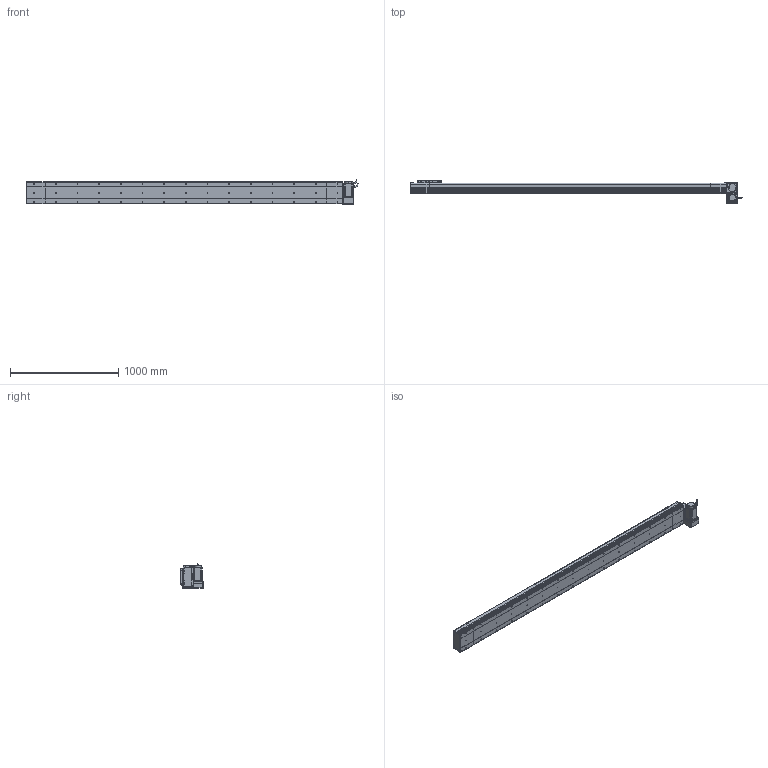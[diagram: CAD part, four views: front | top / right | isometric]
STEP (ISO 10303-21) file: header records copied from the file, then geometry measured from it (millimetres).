
FILE_DESCRIPTION (( 'STEP AP214' ), '1' );
FILE_NAME ('D20 CBH RU S2600.STEP', '2010-06-30T10:19:48', ( 'Conseil Régional Haute-Normandie' ), ( 'Conseil Régional Haute-Normandie' ), 'SwSTEP 2.0', 'SolidWorks 2010', '' );
FILE_SCHEMA (( 'AUTOMOTIVE_DESIGN' ));
Length unit declared in the file: millimetre
Products named in the file (31): vis M5 L30_Default; Moteur motionking 90BLDC125A-640; Conecteur_Default; Conecteur2_Default; codeur 90BLDC125-640; corps 90BLDC125A-640; avant 90BLDC125A-640; ecrou_Default; Rondelle Cache D20 RU_Default; vis M5 L15_Default; Plaque De Serrage D20_Default; Plaque de Bout Tail D20_Default; Couvercle_Default; Corp Tail D20_Default; Tail D20_Default; Glissiere_Default; Chariot D20_Default; Support Chariot D20_Default; Couvercle S2600_Default; Corp S2600_Default; Corp D20 S2600_Default; vis M5 L47_Default; D20 CBH RU S2600; Head RU_Default; Corp Tail D20 RU_Default; Support moteur RU_Default; Plaque de Bout Head D20 RU_Default; Cache Support Moteur RU_Default; Plaque De Serrage D20 RU_Default; Couvercle RU_Default
Assembly tree (66 placements, depth 4):
  D20 CBH RU S2600
    Corp D20 S2600_Default
      Corp S2600_Default
      Couvercle S2600_Default
    Head RU_Default
      Corp Tail D20 RU_Default
      Rondelle Cache D20 RU_Default  x3
      vis M5 L30_Default  x4
      vis M5 L15_Default  x12
      vis M5 L47_Default  x4
      ecrou_Default  x4
      Plaque De Serrage D20 RU_Default
      Moteur motionking 90BLDC125A-640
        codeur 90BLDC125-640
        corps 90BLDC125A-640
        Conecteur2_Default
        Conecteur_Default
        avant 90BLDC125A-640
      Plaque de Bout Head D20 RU_Default
      Cache Support Moteur RU_Default
      Support moteur RU_Default
      Couvercle RU_Default
    Tail D20_Default
      vis M5 L15_Default  x6
      Corp Tail D20_Default
      Plaque de Bout Tail D20_Default
      Plaque De Serrage D20_Default
      Couvercle_Default
    Chariot D20_Default
      Support Chariot D20_Default
      vis M5 L15_Default  x8
      Chariot D20_Default
      Glissiere_Default
Bounding box: 3064.45 x 209 x 229.7 mm (x, y, z)
Volume: 20714367.6 mm3; surface area: 4004639.1 mm2
Topology: 103 solids, 103 shells, 3796 faces, 9452 edges, 6142 vertices
Faces by surface type: plane 2105, bspline 806, cylinder 722, torus 91, cone 68, sphere 4
Entity records: 160126 total; most frequent: CARTESIAN_POINT 82428, ORIENTED_EDGE 15372, DIRECTION 11754, EDGE_CURVE 7686, VERTEX_POINT 5086, LINE 4954, VECTOR 4954, AXIS2_PLACEMENT_3D 3400
